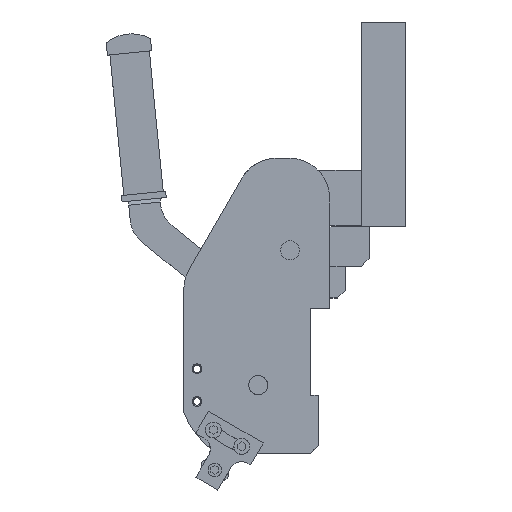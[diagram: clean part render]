
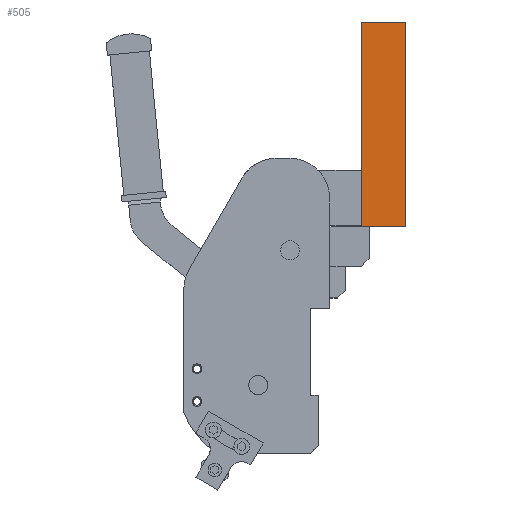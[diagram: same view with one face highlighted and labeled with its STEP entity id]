
A CAD part, top view. The second image highlights one B-rep face of the part: STEP entity #505.
In plain terms, the highlighted planar face has unit normal (0, 0, 1) as drawn and (0, 0, -1) by its records, which use the part's own axes.
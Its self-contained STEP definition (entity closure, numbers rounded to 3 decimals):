
#505 = ADVANCED_FACE ( 'NONE', ( #12254 ), #4000, .F. ) ;
#658 = CARTESIAN_POINT ( 'NONE',  ( 129., 0., -10. ) ) ;
#1478 = EDGE_LOOP ( 'NONE', ( #4321, #4344, #4384, #4508, #4527, #4487 ) ) ;
#1707 = DIRECTION ( 'NONE',  ( -1., 0., 0. ) ) ;
#2033 = VERTEX_POINT ( 'NONE', #11376 ) ;
#2044 = LINE ( 'NONE', #658, #5479 ) ;
#2092 = VERTEX_POINT ( 'NONE', #11279 ) ;
#2626 = VERTEX_POINT ( 'NONE', #6600 ) ;
#2634 = VERTEX_POINT ( 'NONE', #6588 ) ;
#2728 = VERTEX_POINT ( 'NONE', #4846 ) ;
#2807 = VERTEX_POINT ( 'NONE', #4063 ) ;
#3057 = CARTESIAN_POINT ( 'NONE',  ( 129., 0., -10. ) ) ;
#3438 = VECTOR ( 'NONE', #5862, 1000. ) ;
#3957 = DIRECTION ( 'NONE',  ( 1., 0., 0. ) ) ;
#3975 = DIRECTION ( 'NONE',  ( 0., 0., 1. ) ) ;
#3988 = CARTESIAN_POINT ( 'NONE',  ( 129., 28., -10. ) ) ;
#4000 = PLANE ( 'NONE',  #12119 ) ;
#4063 = CARTESIAN_POINT ( 'NONE',  ( 35.5, 0., -10. ) ) ;
#4321 = ORIENTED_EDGE ( 'NONE', *, *, #6937, .T. ) ;
#4344 = ORIENTED_EDGE ( 'NONE', *, *, #9111, .T. ) ;
#4384 = ORIENTED_EDGE ( 'NONE', *, *, #10397, .T. ) ;
#4392 = LINE ( 'NONE', #3057, #8347 ) ;
#4487 = ORIENTED_EDGE ( 'NONE', *, *, #8331, .T. ) ;
#4508 = ORIENTED_EDGE ( 'NONE', *, *, #6671, .T. ) ;
#4527 = ORIENTED_EDGE ( 'NONE', *, *, #9065, .F. ) ;
#4846 = CARTESIAN_POINT ( 'NONE',  ( 0., 28., -10. ) ) ;
#5479 = VECTOR ( 'NONE', #11897, 1000. ) ;
#5862 = DIRECTION ( 'NONE',  ( 0., -1., 0. ) ) ;
#6427 = VECTOR ( 'NONE', #7259, 1000. ) ;
#6588 = CARTESIAN_POINT ( 'NONE',  ( 129., 28., -10. ) ) ;
#6600 = CARTESIAN_POINT ( 'NONE',  ( 129., 0., -10. ) ) ;
#6671 = EDGE_CURVE ( 'NONE', #2033, #2092, #7489, .T. ) ;
#6937 = EDGE_CURVE ( 'NONE', #2634, #2626, #12202, .T. ) ;
#7259 = DIRECTION ( 'NONE',  ( -1., 0., 0. ) ) ;
#7335 = CARTESIAN_POINT ( 'NONE',  ( 129., 0., -10. ) ) ;
#7396 = CARTESIAN_POINT ( 'NONE',  ( 0., 28., -10. ) ) ;
#7489 = LINE ( 'NONE', #7335, #6427 ) ;
#8331 = EDGE_CURVE ( 'NONE', #2728, #2634, #10974, .T. ) ;
#8347 = VECTOR ( 'NONE', #1707, 1000. ) ;
#8412 = VECTOR ( 'NONE', #8775, 1000. ) ;
#8673 = LINE ( 'NONE', #7396, #3438 ) ;
#8775 = DIRECTION ( 'NONE',  ( 1., 0., 0. ) ) ;
#9065 = EDGE_CURVE ( 'NONE', #2728, #2092, #8673, .T. ) ;
#9111 = EDGE_CURVE ( 'NONE', #2626, #2807, #2044, .T. ) ;
#9877 = CARTESIAN_POINT ( 'NONE',  ( 0., 28., -10. ) ) ;
#10397 = EDGE_CURVE ( 'NONE', #2807, #2033, #4392, .T. ) ;
#10974 = LINE ( 'NONE', #9877, #8412 ) ;
#11279 = CARTESIAN_POINT ( 'NONE',  ( 0., 0., -10. ) ) ;
#11376 = CARTESIAN_POINT ( 'NONE',  ( 0.5, 0., -10. ) ) ;
#11897 = DIRECTION ( 'NONE',  ( -1., 0., 0. ) ) ;
#12119 = AXIS2_PLACEMENT_3D ( 'NONE', #3988, #3975, #3957 ) ;
#12128 = DIRECTION ( 'NONE',  ( 0., -1., 0. ) ) ;
#12134 = CARTESIAN_POINT ( 'NONE',  ( 129., 28., -10. ) ) ;
#12202 = LINE ( 'NONE', #12134, #12284 ) ;
#12254 = FACE_OUTER_BOUND ( 'NONE', #1478, .T. ) ;
#12284 = VECTOR ( 'NONE', #12128, 1000. ) ;
